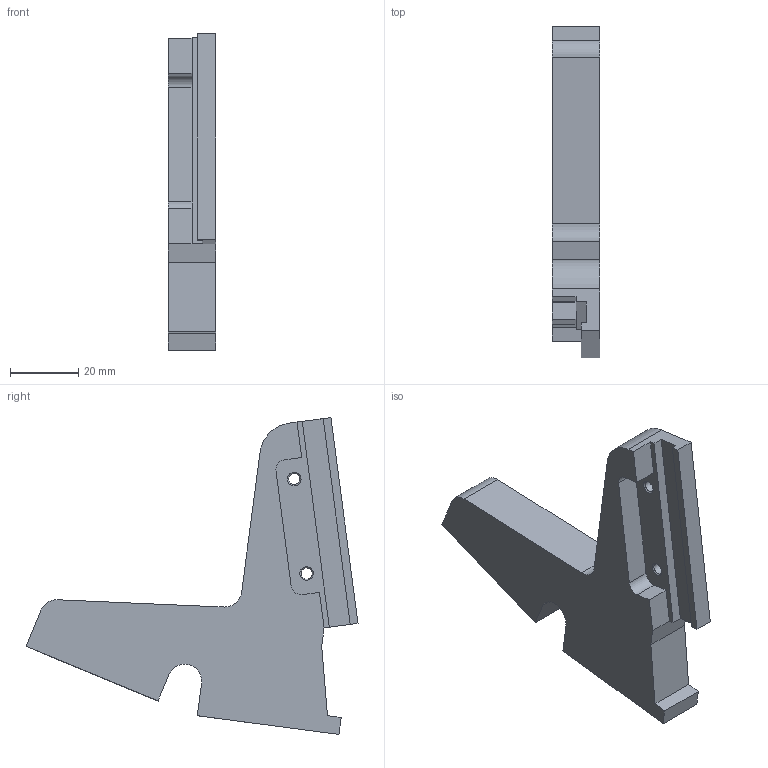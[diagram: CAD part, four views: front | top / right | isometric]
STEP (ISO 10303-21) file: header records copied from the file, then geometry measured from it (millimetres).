
FILE_DESCRIPTION(/* description */ (''),/* implementation_level */ '2;1');
FILE_NAME(/* name */ 'ASSY_STAVE_ONWHEELS_14.stp',/* time_stamp */ '2017-12-06T14:23:20+01:00',/* author */ (''),/* organization */ (''),/* preprocessor_version */ 'ST-DEVELOPER v16',/* originating_system */ 'SIEMENS PLM Software NX 10.0',/* authorisation */ '');
FILE_SCHEMA (('AP203_CONFIGURATION_CONTROLLED_3D_DESIGN_OF_MECHANICAL_PARTS_AND_ASSEMBLIES_MIM_LF { 1 0 10303 403 2 1 2}'));
Length unit declared in the file: millimetre
Products named in the file (1): turc1DB80072j4ka
Bounding box: 14 x 97.58 x 93.11 mm (x, y, z)
Volume: 44983.5 mm3; surface area: 13617.3 mm2
Topology: 1 solids, 1 shells, 59 faces, 168 edges, 113 vertices
Faces by surface type: plane 30, cylinder 16, cone 13
Full cylindrical faces by diameter (mm): 2.5 x4, 3.3 x2, 3.8 x1, 4 x1
Entity records: 1806 total; most frequent: DIRECTION 309, CARTESIAN_POINT 293, ORIENTED_EDGE 250, EDGE_CURVE 125, AXIS2_PLACEMENT_3D 112, VERTEX_POINT 96, EDGE_LOOP 86, LINE 85
